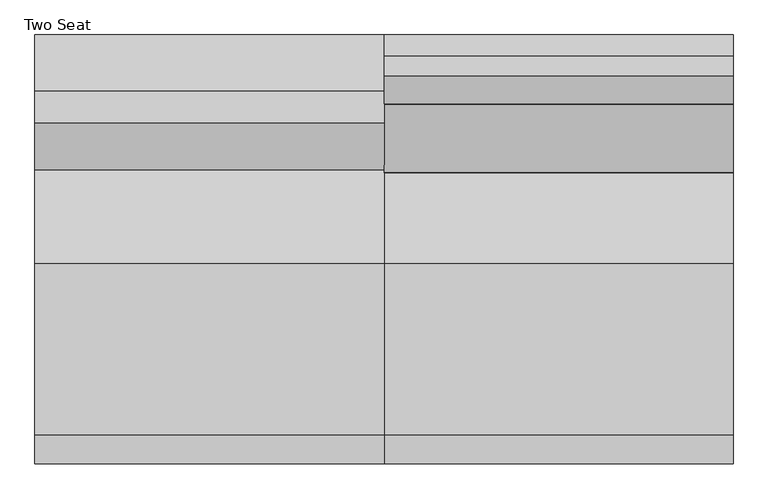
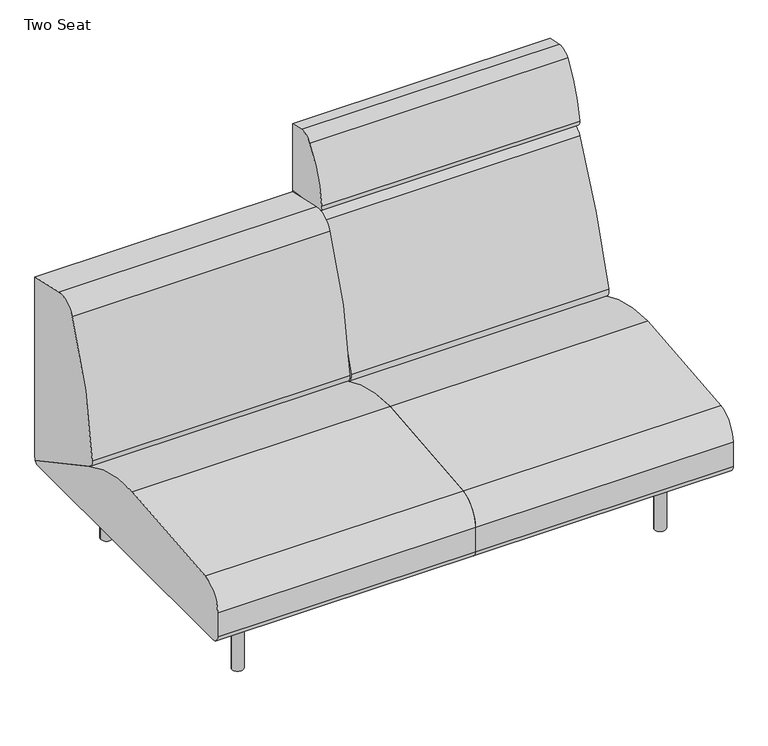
"""IFC4 building model written with IfcOpenShell, lengths in millimetres: furniture geometry, Coalesse_AM_Seating_LoungeChair_Sistema_LegBase_TwoSeat : Two Seat."""

from ifc_helpers import new_model, si_unit, point, frame, frame_2d, origin, origin_with_axes, place, context, project, spatial, polyline, circle_curve, trimmed, segment, composite_curve, outline, extrude, source, transform, mapped, element, save


def two_seat_70e73082(model_context):
    return source(origin(), model_context, "Body", "SweptSolid", [
        extrude(outline(composite_curve([segment(trimmed(circle_curve(frame_2d((989.1765227, 335.9943389)), 6.096), [point((995.2725227, 335.9943389))], [point((983.0805227, 335.9943389))], False, "CARTESIAN"), True, "CONTINUOUS"), segment(trimmed(circle_curve(frame_2d((989.1765227, 335.9943389)), 6.096), [point((983.0805227, 335.9943389))], [point((995.2725227, 335.9943389))], False, "CARTESIAN"), True, "CONTINUOUS")], self_intersect=False)), origin_with_axes(), (0.0, 0.0, 1.0), 4.3662291),
        extrude(outline(composite_curve([segment(trimmed(circle_curve(frame_2d((989.1765227, -327.2630889)), 6.096), [point((995.2725227, -327.2630889))], [point((983.0805227, -327.2630889))], False, "CARTESIAN"), True, "CONTINUOUS"), segment(trimmed(circle_curve(frame_2d((989.1765227, -327.2630889)), 6.096), [point((983.0805227, -327.2630889))], [point((995.2725227, -327.2630889))], False, "CARTESIAN"), True, "CONTINUOUS")], self_intersect=False)), origin_with_axes(), (0.0, 0.0, 1.0), 4.3662291),
        extrude(outline(composite_curve([segment(polyline([(157.0399209, 1001.756375), (201.7356243, 1001.756375)]), True, "CONTINUOUS"), segment(trimmed(circle_curve(frame_2d((201.7356243, 998.708375)), 3.048), [point((201.7356243, 1001.756375))], [point((204.7836243, 998.708375))], False, "CARTESIAN"), True, "CONTINUOUS"), segment(polyline([(204.7836243, 998.708375), (204.7836243, 979.366199)]), True, "CONTINUOUS"), segment(trimmed(circle_curve(frame_2d((201.7356243, 979.366199)), 3.048), [point((204.7836243, 979.366199))], [point((201.7356243, 976.318199))], False, "CARTESIAN"), True, "CONTINUOUS"), segment(polyline([(201.7356243, 976.318199), (157.1249936, 976.318199)]), True, "CONTINUOUS"), segment(trimmed(circle_curve(frame_2d((157.1249936, 979.4512718)), 3.1330728), [point((157.1249936, 976.318199))], [point((153.9919209, 979.4512718))], False, "CARTESIAN"), True, "CONTINUOUS"), segment(polyline([(153.9919209, 979.4512718), (153.9919209, 998.708375)]), True, "CONTINUOUS"), segment(trimmed(circle_curve(frame_2d((157.0399209, 998.708375)), 3.048), [point((153.9919209, 998.708375))], [point((157.0399209, 1001.756375))], False, "CARTESIAN"), True, "CONTINUOUS")], self_intersect=False)), frame((0.0, 222.3519802, 0.0), z_axis=(0.0, 1.0, 0.0), x_axis=(0.0, 0.0, 1.0)), (0.0, 0.0, 1.0), 92.6273161),
        extrude(outline(composite_curve([segment(polyline([(157.0399209, 1001.756375), (201.7356243, 1001.756375)]), True, "CONTINUOUS"), segment(trimmed(circle_curve(frame_2d((201.7356243, 998.708375)), 3.048), [point((201.7356243, 1001.756375))], [point((204.7836243, 998.708375))], False, "CARTESIAN"), True, "CONTINUOUS"), segment(polyline([(204.7836243, 998.708375), (204.7836243, 979.366199)]), True, "CONTINUOUS"), segment(trimmed(circle_curve(frame_2d((201.7356243, 979.366199)), 3.048), [point((204.7836243, 979.366199))], [point((201.7356243, 976.318199))], False, "CARTESIAN"), True, "CONTINUOUS"), segment(polyline([(201.7356243, 976.318199), (157.1249936, 976.318199)]), True, "CONTINUOUS"), segment(trimmed(circle_curve(frame_2d((157.1249936, 979.4512718)), 3.1330728), [point((157.1249936, 976.318199))], [point((153.9919209, 979.4512718))], False, "CARTESIAN"), True, "CONTINUOUS"), segment(polyline([(153.9919209, 979.4512718), (153.9919209, 998.708375)]), True, "CONTINUOUS"), segment(trimmed(circle_curve(frame_2d((157.0399209, 998.708375)), 3.048), [point((153.9919209, 998.708375))], [point((157.0399209, 1001.756375))], False, "CARTESIAN"), True, "CONTINUOUS")], self_intersect=False)), frame((0.0, -314.9792963, 0.0), z_axis=(0.0, 1.0, 0.0), x_axis=(0.0, 0.0, 1.0)), (0.0, 0.0, 1.0), 92.6273161),
        extrude(outline(composite_curve([segment(trimmed(circle_curve(frame_2d((176.3356606, 966.5259944)), 3.048), [point((179.3836606, 966.5259944))], [point((176.3356606, 963.4779944))], False, "CARTESIAN"), True, "CONTINUOUS"), segment(polyline([(176.3356606, 963.4779944), (157.0399209, 963.4779944)]), True, "CONTINUOUS"), segment(trimmed(circle_curve(frame_2d((157.0399209, 966.5259944)), 3.048), [point((157.0399209, 963.4779944))], [point((153.9919209, 966.5259944))], False, "CARTESIAN"), True, "CONTINUOUS"), segment(polyline([(153.9919209, 966.5259944), (153.9919209, 1011.2135501)]), True, "CONTINUOUS"), segment(trimmed(circle_curve(frame_2d((157.056462, 1011.2135501)), 3.0645412), [point((153.9919209, 1011.2135501))], [point((157.056462, 1014.2780913))], False, "CARTESIAN"), True, "CONTINUOUS"), segment(polyline([(157.056462, 1014.2780913), (176.3356606, 1014.2780913)]), True, "CONTINUOUS"), segment(trimmed(circle_curve(frame_2d((176.3356606, 1011.2300913)), 3.048), [point((176.3356606, 1014.2780913))], [point((179.3836606, 1011.2300913))], False, "CARTESIAN"), True, "CONTINUOUS"), segment(polyline([(179.3836606, 1011.2300913), (179.3836606, 966.5259944)]), True, "CONTINUOUS")], self_intersect=False)), frame((0.0, -222.3519802, 0.0), z_axis=(0.0, 1.0, 0.0), x_axis=(0.0, 0.0, 1.0)), (0.0, 0.0, 1.0), 444.7039604),
        extrude(outline(composite_curve([segment(trimmed(circle_curve(frame_2d((989.1765227, 332.3095741)), 16.51), [point((1005.6865227, 332.3095741))], [point((972.6665227, 332.3095741))], False, "CARTESIAN"), True, "CONTINUOUS"), segment(trimmed(circle_curve(frame_2d((989.1765227, 332.3095741)), 16.51), [point((972.6665227, 332.3095741))], [point((1005.6865227, 332.3095741))], False, "CARTESIAN"), True, "CONTINUOUS")], self_intersect=False)), frame((0.0, 0.0, 4.3662291), z_axis=(0.0, 0.0, 1.0), x_axis=(1.0, 0.0, 0.0)), (0.0, 0.0, 1.0), 200.1037709),
        extrude(outline(composite_curve([segment(trimmed(circle_curve(frame_2d((988.7796477, -327.5470741)), 16.51), [point((1005.2896477, -327.5470741))], [point((972.2696477, -327.5470741))], False, "CARTESIAN"), True, "CONTINUOUS"), segment(trimmed(circle_curve(frame_2d((988.7796477, -327.5470741)), 16.51), [point((972.2696477, -327.5470741))], [point((1005.2896477, -327.5470741))], False, "CARTESIAN"), True, "CONTINUOUS")], self_intersect=False)), frame((0.0, 0.0, 4.3662291), z_axis=(0.0, 0.0, 1.0), x_axis=(1.0, 0.0, 0.0)), (0.0, 0.0, 1.0), 200.1037709),
        extrude(outline(composite_curve([segment(polyline([(459.4795619, 775.8234697), (459.4795619, 228.1929806)]), True, "CONTINUOUS"), segment(trimmed(circle_curve(frame_2d((191.495971, 228.1929806)), 267.983591), [point((459.4795619, 228.1929806))], [point((458.9860775, 211.937276))], False, "CARTESIAN"), True, "CONTINUOUS"), segment(polyline([(458.9860775, 211.937276), (183.8457951, 360.6719742)]), True, "CONTINUOUS"), segment(trimmed(circle_curve(frame_2d((195.9245701, 383.0161724)), 25.4), [point((183.8457951, 360.6719742))], [point((170.6161698, 385.1713698))], False, "CARTESIAN"), True, "CONTINUOUS"), segment(trimmed(circle_curve(frame_2d((1327.5544182, 286.6495247)), 1161.1256023), [point((170.6161698, 385.1713698))], [point((271.1088001, 768.4537592))], False, "CARTESIAN"), True, "CONTINUOUS"), segment(trimmed(circle_curve(frame_2d((326.5730192, 743.158661)), 60.96), [point((271.1088001, 768.4537592))], [point((339.9143278, 802.6408523))], False, "CARTESIAN"), True, "CONTINUOUS"), segment(polyline([(339.9143278, 802.6408523), (459.4795619, 775.8234697)]), True, "CONTINUOUS")], self_intersect=False)), frame((-374.8034773, 0.0, 0.0), z_axis=(1.0, 0.0, 0.0), x_axis=(0.0, 1.0, 0.0)), (0.0, 0.0, 1.0), 749.3),
        extrude(outline(composite_curve([segment(trimmed(circle_curve(frame_2d((-438.9184381, 226.822)), 22.352), [point((-438.9184381, 204.47))], [point((-461.2704381, 226.822))], False, "CARTESIAN"), True, "CONTINUOUS"), segment(polyline([(-461.2704381, 226.822), (-461.2704381, 301.4421993)]), True, "CONTINUOUS"), segment(trimmed(circle_curve(frame_2d((-385.0704381, 301.4421993)), 76.2), [point((-461.2704381, 301.4421993))], [point((-398.9277015, 376.3716077))], False, "CARTESIAN"), True, "CONTINUOUS"), segment(trimmed(circle_curve(frame_2d((2.2103559, -1792.6740646)), 2205.8265729), [point((-398.9277015, 376.3716077))], [point((-31.1968175, 412.8995185))], False, "CARTESIAN"), True, "CONTINUOUS"), segment(trimmed(circle_curve(frame_2d((-24.5128424, -28.3829182)), 441.333054), [point((-31.1968175, 412.8995185))], [point((184.5757008, 360.2774035))], False, "CARTESIAN"), True, "CONTINUOUS"), segment(polyline([(184.5757008, 360.2774035), (458.9860775, 211.937276)]), True, "CONTINUOUS"), segment(trimmed(circle_curve(frame_2d((442.3266309, 226.7871991)), 22.3171991), [point((458.9860775, 211.937276))], [point((442.3266309, 204.47))], False, "CARTESIAN"), True, "CONTINUOUS"), segment(polyline([(442.3266309, 204.47), (-438.9184381, 204.47)]), True, "CONTINUOUS")], self_intersect=False)), frame((-374.8034773, 0.0, 0.0), z_axis=(1.0, 0.0, 0.0), x_axis=(0.0, 1.0, 0.0)), (0.0, 0.0, 1.0), 749.3),
        extrude(outline(composite_curve([segment(polyline([(459.4795619, 985.4592709), (459.4795619, 780.845009), (327.9700683, 799.327463)]), True, "CONTINUOUS"), segment(trimmed(circle_curve(frame_2d((330.6213159, 818.1920697)), 19.05), [point((327.9700683, 799.327463))], [point((311.7521971, 820.8110119))], False, "CARTESIAN"), True, "CONTINUOUS"), segment(trimmed(circle_curve(frame_2d((679.5815991, 769.7580741)), 371.3554516), [point((311.7521971, 820.8110119))], [point((372.1246101, 978.0249014))], False, "CARTESIAN"), True, "CONTINUOUS"), segment(trimmed(circle_curve(frame_2d((405.8944569, 955.1497055)), 40.7881985), [point((372.1246101, 978.0249014))], [point((414.3748002, 995.046584))], False, "CARTESIAN"), True, "CONTINUOUS"), segment(polyline([(414.3748002, 995.046584), (459.4795619, 985.4592709)]), True, "CONTINUOUS")], self_intersect=False)), frame((374.4965227, 0.0, 0.0), z_axis=(1.0, 0.0, 0.0), x_axis=(0.0, 1.0, 0.0)), (0.0, 0.0, 1.0), 749.3),
        extrude(outline(composite_curve([segment(polyline([(459.4795619, 780.845009), (459.4795619, 228.1929806)]), True, "CONTINUOUS"), segment(trimmed(circle_curve(frame_2d((191.495971, 228.1929806)), 267.983591), [point((459.4795619, 228.1929806))], [point((458.9860775, 211.937276))], False, "CARTESIAN"), True, "CONTINUOUS"), segment(polyline([(458.9860775, 211.937276), (177.4990556, 364.1028799)]), True, "CONTINUOUS"), segment(trimmed(circle_curve(frame_2d((189.5778307, 386.4470781)), 25.4), [point((177.4990556, 364.1028799))], [point((164.9600055, 392.7018911))], False, "CARTESIAN"), True, "CONTINUOUS"), segment(trimmed(circle_curve(frame_2d((1918.112812, -52.7331923)), 1808.8552115), [point((164.9600055, 392.7018911))], [point((310.2880264, 776.0349508))], False, "CARTESIAN"), True, "CONTINUOUS"), segment(trimmed(circle_curve(frame_2d((344.1537133, 758.5785695)), 38.1), [point((310.2880264, 776.0349508))], [point((349.4562085, 796.3077829))], False, "CARTESIAN"), True, "CONTINUOUS"), segment(polyline([(349.4562085, 796.3077829), (459.4795619, 780.845009)]), True, "CONTINUOUS")], self_intersect=False)), frame((374.4965227, 0.0, 0.0), z_axis=(1.0, 0.0, 0.0), x_axis=(0.0, 1.0, 0.0)), (0.0, 0.0, 1.0), 749.3),
        extrude(outline(composite_curve([segment(trimmed(circle_curve(frame_2d((-438.9184381, 226.822)), 22.352), [point((-438.9184381, 204.47))], [point((-461.2704381, 226.822))], False, "CARTESIAN"), True, "CONTINUOUS"), segment(polyline([(-461.2704381, 226.822), (-461.2704381, 301.4421993)]), True, "CONTINUOUS"), segment(trimmed(circle_curve(frame_2d((-385.0704381, 301.4421993)), 76.2), [point((-461.2704381, 301.4421993))], [point((-398.9277015, 376.3716077))], False, "CARTESIAN"), True, "CONTINUOUS"), segment(trimmed(circle_curve(frame_2d((2.2103559, -1792.6740646)), 2205.8265729), [point((-398.9277015, 376.3716077))], [point((-31.1968175, 412.8995185))], False, "CARTESIAN"), True, "CONTINUOUS"), segment(trimmed(circle_curve(frame_2d((-24.5128424, -28.3829182)), 441.333054), [point((-31.1968175, 412.8995185))], [point((184.5757008, 360.2774035))], False, "CARTESIAN"), True, "CONTINUOUS"), segment(polyline([(184.5757008, 360.2774035), (458.9860775, 211.937276)]), True, "CONTINUOUS"), segment(trimmed(circle_curve(frame_2d((442.3266309, 226.7871991)), 22.3171991), [point((458.9860775, 211.937276))], [point((442.3266309, 204.47))], False, "CARTESIAN"), True, "CONTINUOUS"), segment(polyline([(442.3266309, 204.47), (-438.9184381, 204.47)]), True, "CONTINUOUS")], self_intersect=False)), frame((374.4965227, 0.0, 0.0), z_axis=(1.0, 0.0, 0.0), x_axis=(0.0, 1.0, 0.0)), (0.0, 0.0, 1.0), 749.3),
        extrude(outline(composite_curve([segment(trimmed(circle_curve(frame_2d((-240.1834773, 335.9943389)), 6.096), [point((-246.2794773, 335.9943389))], [point((-234.0874773, 335.9943389))], False, "CARTESIAN"), True, "CONTINUOUS"), segment(trimmed(circle_curve(frame_2d((-240.1834773, 335.9943389)), 6.096), [point((-234.0874773, 335.9943389))], [point((-246.2794773, 335.9943389))], False, "CARTESIAN"), True, "CONTINUOUS")], self_intersect=False)), origin_with_axes(), (0.0, 0.0, 1.0), 4.3662291),
        extrude(outline(composite_curve([segment(trimmed(circle_curve(frame_2d((-240.1834773, -327.2630889)), 6.096), [point((-246.2794773, -327.2630889))], [point((-234.0874773, -327.2630889))], False, "CARTESIAN"), True, "CONTINUOUS"), segment(trimmed(circle_curve(frame_2d((-240.1834773, -327.2630889)), 6.096), [point((-234.0874773, -327.2630889))], [point((-246.2794773, -327.2630889))], False, "CARTESIAN"), True, "CONTINUOUS")], self_intersect=False)), origin_with_axes(), (0.0, 0.0, 1.0), 4.3662291),
        extrude(outline(composite_curve([segment(trimmed(circle_curve(frame_2d((157.0399209, -249.7153296)), 3.048), [point((157.0399209, -252.7633296))], [point((153.9919209, -249.7153296))], False, "CARTESIAN"), True, "CONTINUOUS"), segment(polyline([(153.9919209, -249.7153296), (153.9919209, -230.4582264)]), True, "CONTINUOUS"), segment(trimmed(circle_curve(frame_2d((157.1249936, -230.4582264)), 3.1330728), [point((153.9919209, -230.4582264))], [point((157.1249936, -227.3251537))], False, "CARTESIAN"), True, "CONTINUOUS"), segment(polyline([(157.1249936, -227.3251537), (201.7356243, -227.3251537)]), True, "CONTINUOUS"), segment(trimmed(circle_curve(frame_2d((201.7356243, -230.3731537)), 3.048), [point((201.7356243, -227.3251537))], [point((204.7836243, -230.3731537))], False, "CARTESIAN"), True, "CONTINUOUS"), segment(polyline([(204.7836243, -230.3731537), (204.7836243, -249.7153296)]), True, "CONTINUOUS"), segment(trimmed(circle_curve(frame_2d((201.7356243, -249.7153296)), 3.048), [point((204.7836243, -249.7153296))], [point((201.7356243, -252.7633296))], False, "CARTESIAN"), True, "CONTINUOUS"), segment(polyline([(201.7356243, -252.7633296), (157.0399209, -252.7633296)]), True, "CONTINUOUS")], self_intersect=False)), frame((0.0, 222.3519802, 0.0), z_axis=(0.0, 1.0, 0.0), x_axis=(0.0, 0.0, 1.0)), (0.0, 0.0, 1.0), 92.6273161),
        extrude(outline(composite_curve([segment(trimmed(circle_curve(frame_2d((157.0399209, -249.7153296)), 3.048), [point((157.0399209, -252.7633296))], [point((153.9919209, -249.7153296))], False, "CARTESIAN"), True, "CONTINUOUS"), segment(polyline([(153.9919209, -249.7153296), (153.9919209, -230.4582264)]), True, "CONTINUOUS"), segment(trimmed(circle_curve(frame_2d((157.1249936, -230.4582264)), 3.1330728), [point((153.9919209, -230.4582264))], [point((157.1249936, -227.3251537))], False, "CARTESIAN"), True, "CONTINUOUS"), segment(polyline([(157.1249936, -227.3251537), (201.7356243, -227.3251537)]), True, "CONTINUOUS"), segment(trimmed(circle_curve(frame_2d((201.7356243, -230.3731537)), 3.048), [point((201.7356243, -227.3251537))], [point((204.7836243, -230.3731537))], False, "CARTESIAN"), True, "CONTINUOUS"), segment(polyline([(204.7836243, -230.3731537), (204.7836243, -249.7153296)]), True, "CONTINUOUS"), segment(trimmed(circle_curve(frame_2d((201.7356243, -249.7153296)), 3.048), [point((204.7836243, -249.7153296))], [point((201.7356243, -252.7633296))], False, "CARTESIAN"), True, "CONTINUOUS"), segment(polyline([(201.7356243, -252.7633296), (157.0399209, -252.7633296)]), True, "CONTINUOUS")], self_intersect=False)), frame((0.0, -314.9792963, 0.0), z_axis=(0.0, 1.0, 0.0), x_axis=(0.0, 0.0, 1.0)), (0.0, 0.0, 1.0), 92.6273161),
        extrude(outline(composite_curve([segment(polyline([(179.3836606, -217.532949), (179.3836606, -262.2370459)]), True, "CONTINUOUS"), segment(trimmed(circle_curve(frame_2d((176.3356606, -262.2370459)), 3.048), [point((179.3836606, -262.2370459))], [point((176.3356606, -265.2850459))], False, "CARTESIAN"), True, "CONTINUOUS"), segment(polyline([(176.3356606, -265.2850459), (157.056462, -265.2850459)]), True, "CONTINUOUS"), segment(trimmed(circle_curve(frame_2d((157.056462, -262.2205047)), 3.0645412), [point((157.056462, -265.2850459))], [point((153.9919209, -262.2205047))], False, "CARTESIAN"), True, "CONTINUOUS"), segment(polyline([(153.9919209, -262.2205047), (153.9919209, -217.532949)]), True, "CONTINUOUS"), segment(trimmed(circle_curve(frame_2d((157.0399209, -217.532949)), 3.048), [point((153.9919209, -217.532949))], [point((157.0399209, -214.484949))], False, "CARTESIAN"), True, "CONTINUOUS"), segment(polyline([(157.0399209, -214.484949), (176.3356606, -214.484949)]), True, "CONTINUOUS"), segment(trimmed(circle_curve(frame_2d((176.3356606, -217.532949)), 3.048), [point((176.3356606, -214.484949))], [point((179.3836606, -217.532949))], False, "CARTESIAN"), True, "CONTINUOUS")], self_intersect=False)), frame((0.0, -222.3519802, 0.0), z_axis=(0.0, 1.0, 0.0), x_axis=(0.0, 0.0, 1.0)), (0.0, 0.0, 1.0), 444.7039604),
        extrude(outline(composite_curve([segment(trimmed(circle_curve(frame_2d((-240.1834773, 332.3095741)), 16.51), [point((-256.6934773, 332.3095741))], [point((-223.6734773, 332.3095741))], False, "CARTESIAN"), True, "CONTINUOUS"), segment(trimmed(circle_curve(frame_2d((-240.1834773, 332.3095741)), 16.51), [point((-223.6734773, 332.3095741))], [point((-256.6934773, 332.3095741))], False, "CARTESIAN"), True, "CONTINUOUS")], self_intersect=False)), frame((0.0, 0.0, 4.3662291), z_axis=(0.0, 0.0, 1.0), x_axis=(1.0, 0.0, 0.0)), (0.0, 0.0, 1.0), 200.1037709),
        extrude(outline(composite_curve([segment(trimmed(circle_curve(frame_2d((-239.7866023, -327.5470741)), 16.51), [point((-256.2966023, -327.5470741))], [point((-223.2766023, -327.5470741))], False, "CARTESIAN"), True, "CONTINUOUS"), segment(trimmed(circle_curve(frame_2d((-239.7866023, -327.5470741)), 16.51), [point((-223.2766023, -327.5470741))], [point((-256.2966023, -327.5470741))], False, "CARTESIAN"), True, "CONTINUOUS")], self_intersect=False)), frame((0.0, 0.0, 4.3662291), z_axis=(0.0, 0.0, 1.0), x_axis=(1.0, 0.0, 0.0)), (0.0, 0.0, 1.0), 200.1037709),
    ])


if __name__ == "__main__":
    model = new_model("IFC4")
    model_context = context("Model", 3, world=origin())
    ifc_project = project(units=[si_unit("LENGTHUNIT", "METRE", prefix="MILLI")], contexts=[model_context])
    site = spatial("IfcSite", under=ifc_project)
    building = spatial("IfcBuilding", under=site)
    placement = place(None, origin())
    two_seat_shape = two_seat_70e73082(model_context)
    element("IfcFurniture", 1, ObjectType="Coalesse_AM_Seating_LoungeChair_Sistema_LegBase_TwoSeat : Two Seat", at=placement, inside=building, context=model_context, shape_type="MappedRepresentation", body=[
        mapped(two_seat_shape, transform((0.0, 0.0, 0.0), x_axis=(1.0, 0.0, 0.0), y_axis=(0.0, 1.0, 0.0), z_axis=(0.0, 0.0, 1.0))),
    ])
    save(model, "model.ifc")
